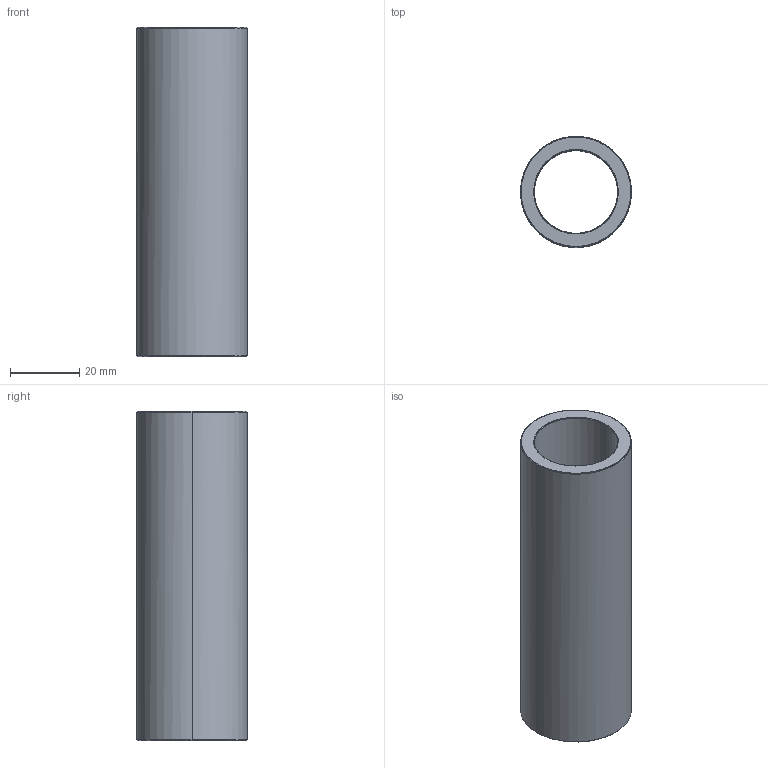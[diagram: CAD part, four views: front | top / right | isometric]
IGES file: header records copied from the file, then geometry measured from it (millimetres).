
Start section: Write IGES format                                    datakit 2008 (c)
Global section: file name: Unknown; native system: DATAKIT Converter; preprocessor: Unknown; author: Unknown; organization: Unknown; date: 950613.180003; units: millimetre
Bounding box: 32 x 31.93 x 95 mm (x, y, z)
Surface area: 17375.8 mm2 (no closed solid volume)
Topology: 0 solids, 0 shells, 14 faces, 56 edges, 56 vertices
Faces by surface type: revolution 12, bspline 2
